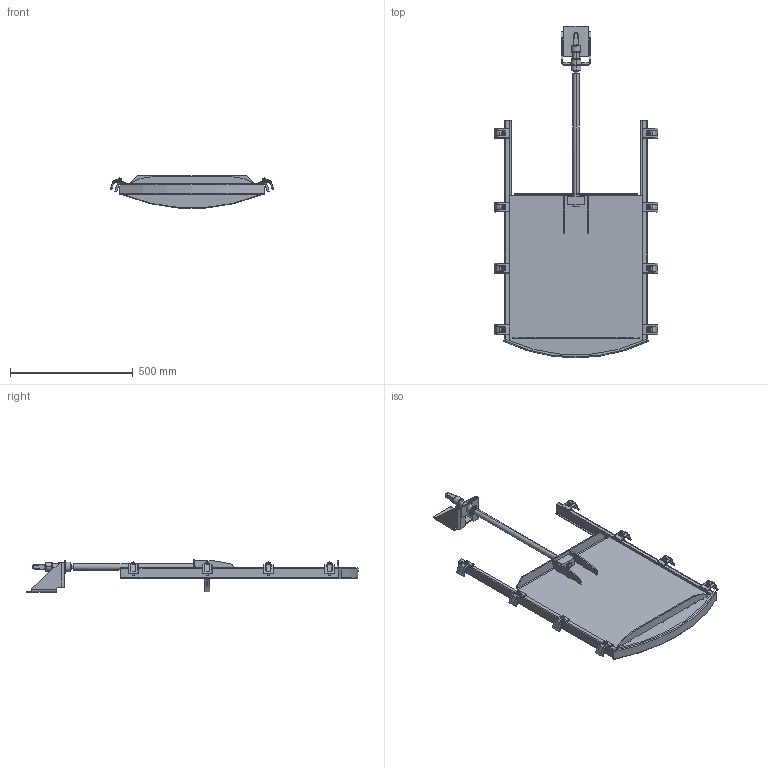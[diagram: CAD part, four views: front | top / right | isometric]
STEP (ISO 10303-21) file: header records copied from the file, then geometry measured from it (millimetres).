
FILE_DESCRIPTION (( 'STEP AP214' ), '1' );
FILE_NAME ('LW 500 Schacht1500 betoniert.STEP', '2022-05-20T09:38:33', ( '' ), ( '' ), 'SwSTEP 2.0', 'SolidWorks 2021', '' );
FILE_SCHEMA (( 'AUTOMOTIVE_DESIGN' ));
Length unit declared in the file: millimetre
Products named in the file (1): LW 500 Schacht1500 betoniert
Bounding box: 669.24 x 1355 x 132.67 mm (x, y, z)
Volume: 4977245 mm3; surface area: 1518127.5 mm2
Topology: 1 solids, 9 shells, 1331 faces, 3166 edges, 1780 vertices
Faces by surface type: cylinder 521, plane 390, cone 118, sphere 112, torus 104, bspline 86
Entity records: 55921 total; most frequent: CARTESIAN_POINT 11696, DIRECTION 6392, ORIENTED_EDGE 6100, EDGE_CURVE 3050, AXIS2_PLACEMENT_3D 2520, VERTEX_POINT 1764, EDGE_LOOP 1414, LINE 1352
